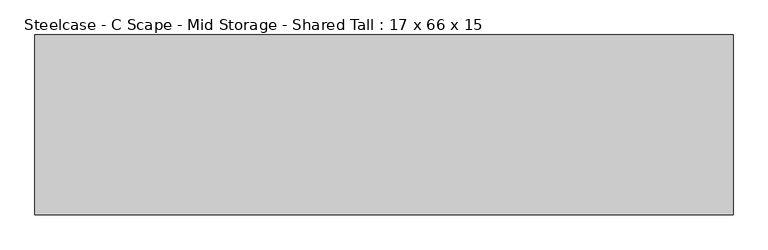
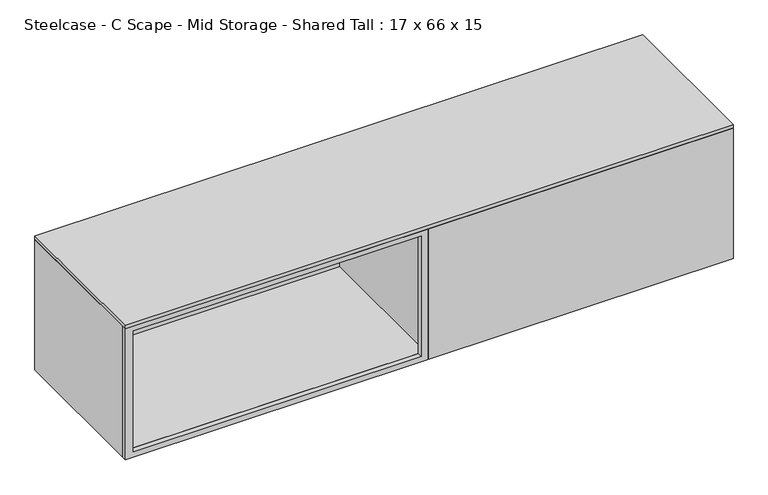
"""IFC4 building model written with IfcOpenShell, lengths in millimetres: furniture geometry, Steelcase - C Scape - Mid Storage - Shared Tall : 17 x 66 x 15."""

import ifcopenshell
import ifcopenshell.guid

model = None  # the IFC model being written
_history = None  # IfcOwnerHistory: only IFC2X3 demands one
_inside = {}  # id of a spatial element -> (the spatial element, [elements in it])
_under = {}  # id of a project, library or spatial element -> (it, [spatial elements below it])
_declared = {}  # id of a project -> (the project, [libraries it declares])
_typed = {}  # id of a type object -> (the type object, [elements of that type])
_made_of = {}  # id of a material, layer set ... -> (it, [elements and type objects made of it])


def new_model(schema):
    """Start an empty IFC model of exactly this schema.

    Asked for "IFC4X3", IfcOpenShell would pick the latest addendum, in which some entities
    have other attributes; the version numbers below select the first issue.
    IFC2X3 requires an IfcOwnerHistory on every rooted entity: one is made here for all.
    """
    global model, _history
    if schema == "IFC4X3":
        model = ifcopenshell.file(schema_version=(4, 3, 0, 0))
    else:
        model = ifcopenshell.file(schema=schema)
    _inside.clear()
    _under.clear()
    _declared.clear()
    _typed.clear()
    _made_of.clear()
    _history = None
    if model.schema == "IFC2X3":
        org = make("IfcOrganization", Name="unknown")
        user = make(
            "IfcPersonAndOrganization",
            ThePerson=make("IfcPerson", FamilyName="unknown"),
            TheOrganization=org,
        )
        app = make(
            "IfcApplication",
            ApplicationDeveloper=org,
            Version="unknown",
            ApplicationFullName="unknown",
            ApplicationIdentifier="unknown",
        )
        _history = make(
            "IfcOwnerHistory",
            OwningUser=user,
            OwningApplication=app,
            ChangeAction="ADDED",
            CreationDate=0,
        )
    return model


def make(cls, **values):
    """One entity of the class cls with the attributes given. An attribute that is None is left unset."""
    return model.create_entity(
        cls, **{name: value for name, value in values.items() if value is not None}
    )


def rooted(cls, **values):
    """An entity with a GlobalId (a new one), such as an element, a storey or a relation."""
    return make(cls, GlobalId=ifcopenshell.guid.new(), OwnerHistory=_history, **values)


def si_unit(unit_type, name, prefix=None):
    """IfcSIUnit, for example si_unit("LENGTHUNIT", "METRE", prefix="MILLI")."""
    return make("IfcSIUnit", UnitType=unit_type, Prefix=prefix, Name=name)


def assignment(units):
    """IfcUnitAssignment: the units of a project."""
    return None if units is None else make("IfcUnitAssignment", Units=units)


def point(xyz):
    """IfcCartesianPoint."""
    return None if xyz is None else make("IfcCartesianPoint", Coordinates=xyz)


def direction(xyz):
    """IfcDirection."""
    return None if xyz is None else make("IfcDirection", DirectionRatios=xyz)


def frame(location, z_axis=None, x_axis=None):
    """IfcAxis2Placement3D, a coordinate frame: its origin and axes. An axis left out is left unset."""
    return make(
        "IfcAxis2Placement3D",
        Location=point(location),
        Axis=direction(z_axis),
        RefDirection=direction(x_axis),
    )


def origin():
    """The frame at (0, 0, 0) with its axes left unset."""
    return frame((0.0, 0.0, 0.0))


def place(relative_to, where):
    """IfcLocalPlacement: puts the frame where relative to a parent placement (None: the world)."""
    return make(
        "IfcLocalPlacement", PlacementRelTo=relative_to, RelativePlacement=where
    )


def context(
    kind, dimensions, precision=None, world=None, true_north=None, identifier=None
):
    """IfcGeometricRepresentationContext, for example the 3D "Model" context."""
    return make(
        "IfcGeometricRepresentationContext",
        ContextIdentifier=identifier,
        ContextType=kind,
        CoordinateSpaceDimension=dimensions,
        Precision=precision,
        WorldCoordinateSystem=world,
        TrueNorth=true_north,
    )


def project(units=None, contexts=None):
    """IfcProject with its units and contexts."""
    return rooted(
        "IfcProject",
        Name="project",
        RepresentationContexts=contexts,
        UnitsInContext=assignment(units),
    )


def spatial(cls, under=None, at=None, **own):
    """A site, building, storey or space (cls), placed at a placement, below another one or the project."""
    s = rooted(cls, ObjectPlacement=at, **own)
    if under is not None:
        _under.setdefault(under.id(), (under, []))[1].append(s)
    return s


def polyline(points):
    """IfcPolyline through the points."""
    return make("IfcPolyline", Points=[point(p) for p in points])


def outline(outer, holes=None, kind="AREA"):
    """IfcArbitraryClosedProfileDef: a profile drawn as a closed curve; with holes, ...WithVoids."""
    if holes is None:
        return make("IfcArbitraryClosedProfileDef", ProfileType=kind, OuterCurve=outer)
    return make(
        "IfcArbitraryProfileDefWithVoids",
        ProfileType=kind,
        OuterCurve=outer,
        InnerCurves=holes,
    )


def extrude(swept, where, along, depth):
    """IfcExtrudedAreaSolid: the profile swept, set in the frame where, extruded along a direction by depth."""
    return make(
        "IfcExtrudedAreaSolid",
        SweptArea=swept,
        Position=where,
        ExtrudedDirection=direction(along),
        Depth=depth,
    )


def faces_of(points, faces, orient=None, outer=None):
    """IfcFace entities. A face is a list of loops; a loop is a list of indices into points, from 0.

    orient and outer hold one flag for each loop. By default every Orientation is true, the
    first loop of a face is its IfcFaceOuterBound and the others are IfcFaceBound.
    """
    made = []
    for i, loops in enumerate(faces):
        bounds = []
        for j, loop in enumerate(loops):
            is_outer = j == 0 if outer is None else outer[i][j]
            bounds.append(
                make(
                    "IfcFaceOuterBound" if is_outer else "IfcFaceBound",
                    Bound=make("IfcPolyLoop", Polygon=[points[k] for k in loop]),
                    Orientation=True if orient is None else orient[i][j],
                )
            )
        made.append(make("IfcFace", Bounds=bounds))
    return made


def faceted_brep(points, faces, orient=None, outer=None, voids=None):
    """IfcFacetedBrep: a solid bounded by flat faces; with voids (closed shells), ...WithVoids."""
    shared = [point(p) for p in points]
    hull = make("IfcClosedShell", CfsFaces=faces_of(shared, faces, orient, outer))
    if voids is None:
        return make("IfcFacetedBrep", Outer=hull)
    return make(
        "IfcFacetedBrepWithVoids",
        Outer=hull,
        Voids=[
            make(cls, CfsFaces=faces_of(shared, fs, o, b)) for cls, fs, o, b in voids
        ],
    )


def shape(context_of_items, identifier, shape_type, items):
    """IfcShapeRepresentation: the items that make up one representation, for example the "Body"."""
    return make(
        "IfcShapeRepresentation",
        ContextOfItems=context_of_items,
        RepresentationIdentifier=identifier,
        RepresentationType=shape_type,
        Items=items,
    )


def source(mapping_origin, context_of_items, identifier, shape_type, items):
    """IfcRepresentationMap: a shape defined once, which mapped items show again and again."""
    return make(
        "IfcRepresentationMap",
        MappingOrigin=mapping_origin,
        MappedRepresentation=shape(context_of_items, identifier, shape_type, items),
    )


def transform(
    local_origin,
    x_axis=None,
    y_axis=None,
    z_axis=None,
    scale=None,
    scale2=None,
    scale3=None,
    uniform=True,
):
    """IfcCartesianTransformationOperator3D, or its non-uniform kind. x_axis, y_axis, z_axis: its Axis1, 2, 3."""
    if uniform:
        return make(
            "IfcCartesianTransformationOperator3D",
            Axis1=direction(x_axis),
            Axis2=direction(y_axis),
            LocalOrigin=point(local_origin),
            Scale=scale,
            Axis3=direction(z_axis),
        )
    return make(
        "IfcCartesianTransformationOperator3DnonUniform",
        Axis1=direction(x_axis),
        Axis2=direction(y_axis),
        LocalOrigin=point(local_origin),
        Scale=scale,
        Axis3=direction(z_axis),
        Scale2=scale2,
        Scale3=scale3,
    )


def mapped(mapping_source, mapping_target):
    """IfcMappedItem: shows the shape of a source again, moved by a transform."""
    return make(
        "IfcMappedItem", MappingSource=mapping_source, MappingTarget=mapping_target
    )


def made_of(thing, what):
    """Note that an element or type object is made of a material, layer set ...; save() writes the relation."""
    if what is not None:
        _made_of.setdefault(what.id(), (what, []))[1].append(thing)
    return thing


def element(
    cls,
    number,
    at=None,
    inside=None,
    cuts=None,
    type_object=None,
    material=None,
    context=None,
    identifier="Body",
    shape_type=None,
    held_by="IfcProductDefinitionShape",
    body=None,
    shapes=None,
    **own,
):
    """One element of the class cls, such as IfcWall. Its Tag is "e" and its number.

    at: its placement. inside: the storey or other place that contains it. cuts: it is an
    opening in that element (IfcRelVoidsElement). A single representation is given by context,
    identifier, shape_type and body (its items); several are given by shapes. held_by: the class
    of the entity that holds the representations. save() writes the other relations.
    """
    e = rooted(cls, Tag="e%d" % number, ObjectPlacement=at, **own)
    if body is not None:
        shapes = [shape(context, identifier, shape_type, body)]
    if shapes is not None:
        e.Representation = make(held_by, Representations=shapes)
    if inside is not None:
        _inside.setdefault(inside.id(), (inside, []))[1].append(e)
    if cuts is not None:
        rooted(
            "IfcRelVoidsElement", RelatingBuildingElement=cuts, RelatedOpeningElement=e
        )
    if type_object is not None:
        _typed.setdefault(type_object.id(), (type_object, []))[1].append(e)
    return made_of(e, material)


def aggregate(whole, parts):
    """IfcRelAggregates: a whole, such as a stair, and the parts it consists of."""
    return rooted("IfcRelAggregates", RelatingObject=whole, RelatedObjects=parts)


def save(model, path):
    """Write the relations noted so far, then the file.

    IfcRelAggregates (storeys below a building ...), IfcRelContainedInSpatialStructure (elements
    in a storey), IfcRelDefinesByType, IfcRelAssociatesMaterial and IfcRelDeclares: one each for
    every whole, place, type object, material and project.
    """
    for whole, parts in _under.values():
        aggregate(whole, parts)
    for where, things in _inside.values():
        rooted(
            "IfcRelContainedInSpatialStructure",
            RelatedElements=things,
            RelatingStructure=where,
        )
    for kind, things in _typed.values():
        rooted("IfcRelDefinesByType", RelatedObjects=things, RelatingType=kind)
    for what, things in _made_of.values():
        rooted("IfcRelAssociatesMaterial", RelatedObjects=things, RelatingMaterial=what)
    for by, libraries in _declared.values():
        rooted("IfcRelDeclares", RelatingContext=by, RelatedDefinitions=libraries)
    model.write(path)


def steelcase_c_scape_mid_storage_shared_tall_17_x_66_x_15_8e268306(model_context):
    return source(origin(), model_context, "Body", "SolidModel", [
        faceted_brep([(841.375, 215.9, 1219.279375), (0.0, 215.9, 1219.279375), (0.0, -201.2949309, 1219.279375), (21.9711633, -201.2949309, 1219.279375), (21.9711633, 206.3755809, 1219.279375), (835.025, 206.3755809, 1219.279375), (835.025, -215.9, 1219.279375), (1676.4, -215.9, 1219.279375), (1676.4, 206.3755809, 1219.279375), (1654.302, 206.3755809, 1219.279375), (1654.302, -201.2949309, 1219.279375), (841.375, -201.2949309, 1219.279375), (1676.4, 206.3755809, 838.2), (1676.4, -215.9, 838.2), (835.025, -215.9, 838.2), (835.025, -201.2949309, 838.2), (0.0, -201.2949309, 838.2), (0.0, 215.9, 838.2), (841.375, 215.9, 838.2), (841.375, 206.3755809, 838.2), (835.025, -201.2949309, 853.4399855), (21.9711633, -201.2949309, 853.4399855), (21.9711633, 206.3755809, 853.4399855), (835.025, 206.3755809, 853.4399855), (841.375, 206.3755809, 853.4399855), (1654.302, 206.3755809, 853.4399855), (1654.302, -201.2949309, 853.4399855), (841.375, -201.2949309, 853.4399855)], [[[0, 1, 2, 3, 4, 5, 6, 7, 8, 9, 10, 11]], [[12, 13, 14, 15, 16, 17, 18, 19]], [[1, 0, 18, 17]], [[2, 1, 17, 16]], [[3, 2, 16, 15, 20, 21]], [[4, 3, 21, 22]], [[5, 4, 22, 23]], [[6, 5, 23, 20, 15, 14]], [[7, 6, 14, 13]], [[8, 7, 13, 12]], [[9, 8, 12, 19, 24, 25]], [[10, 9, 25, 26]], [[11, 10, 26, 27]], [[0, 11, 27, 24, 19, 18]], [[21, 20, 23, 22]], [[25, 24, 27, 26]]]),
        extrude(outline(polyline([(1219.279375, 1676.4), (1219.279375, 841.375), (838.2, 841.375), (838.2, 1676.4), (1219.279375, 1676.4)]), holes=[polyline([(1205.8427824, 1654.302), (853.4399855, 1654.302), (853.4399855, 860.298), (1205.8427824, 860.298), (1205.8427824, 1654.302)])]), frame((0.0, 206.3755809, 0.0), z_axis=(0.0, 1.0, 0.0), x_axis=(0.0, 0.0, 1.0)), (0.0, 0.0, 1.0), 9.5244191),
        extrude(outline(polyline([(1219.279375, 835.025), (1219.279375, 0.0), (838.2, 0.0), (838.2, 835.025), (1219.279375, 835.025)]), holes=[polyline([(1205.8427824, 816.102), (853.4399855, 816.102), (853.4399855, 21.9711633), (1205.8427824, 21.9711633), (1205.8427824, 816.102)])]), frame((0.0, -215.9, 0.0), z_axis=(0.0, 1.0, 0.0), x_axis=(0.0, 0.0, 1.0)), (0.0, 0.0, 1.0), 14.6050691),
        extrude(outline(polyline([(1676.4, -215.9), (0.0, -215.9), (0.0, 215.9), (1676.4, 215.9), (1676.4, -215.9)])), frame((0.0, 0.0, 1219.279375), z_axis=(0.0, 0.0, 1.0), x_axis=(1.0, 0.0, 0.0)), (0.0, 0.0, 1.0), 10.080625),
    ])


if __name__ == "__main__":
    model = new_model("IFC4")
    model_context = context("Model", 3, world=origin())
    ifc_project = project(units=[si_unit("LENGTHUNIT", "METRE", prefix="MILLI")], contexts=[model_context])
    site = spatial("IfcSite", under=ifc_project)
    building = spatial("IfcBuilding", under=site)
    placement = place(None, origin())
    steelcase_c_scape_mid_storage_shared_tall_17_x_66_x_15_shape = steelcase_c_scape_mid_storage_shared_tall_17_x_66_x_15_8e268306(model_context)
    element("IfcFurniture", 1, ObjectType="Steelcase - C Scape - Mid Storage - Shared Tall : 17 x 66 x 15", at=placement, inside=building, context=model_context, shape_type="MappedRepresentation", body=[
        mapped(steelcase_c_scape_mid_storage_shared_tall_17_x_66_x_15_shape, transform((0.0, 0.0, 0.0), x_axis=(1.0, 0.0, 0.0), y_axis=(0.0, 1.0, 0.0), z_axis=(0.0, 0.0, 1.0))),
    ])
    save(model, "model.ifc")
